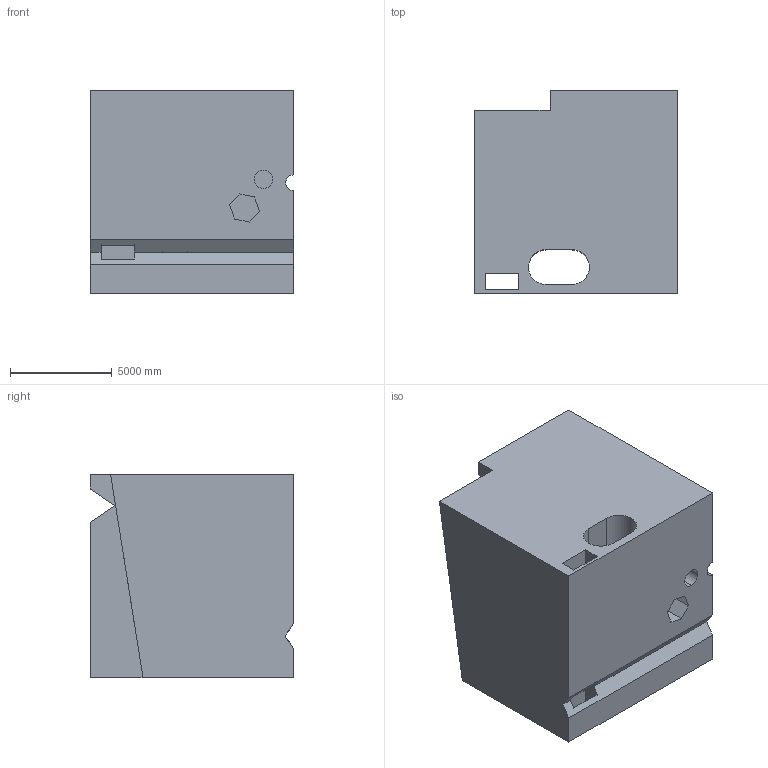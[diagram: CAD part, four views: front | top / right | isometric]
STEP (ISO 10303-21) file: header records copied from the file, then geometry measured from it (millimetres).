
FILE_DESCRIPTION (( 'STEP AP203' ), '1' );
FILE_NAME ('181.STEP', '2022-09-06T13:35:11', ( 'user' ), ( '' ), 'SwSTEP 2.0', 'SolidWorks 2021', '' );
FILE_SCHEMA (( 'CONFIG_CONTROL_DESIGN' ));
Length unit declared in the file: centimetre
Products named in the file (1): 181
Bounding box: 10000 x 10000 x 10000 mm (x, y, z)
Volume: 820411994972.4 mm3; surface area: 819463336.8 mm2
Topology: 1 solids, 1 shells, 39 faces, 111 edges, 74 vertices
Faces by surface type: plane 31, cylinder 8
Entity records: 1351 total; most frequent: CARTESIAN_POINT 228, ORIENTED_EDGE 222, DIRECTION 207, EDGE_CURVE 111, VECTOR 93, LINE 93, VERTEX_POINT 74, AXIS2_PLACEMENT_3D 57
